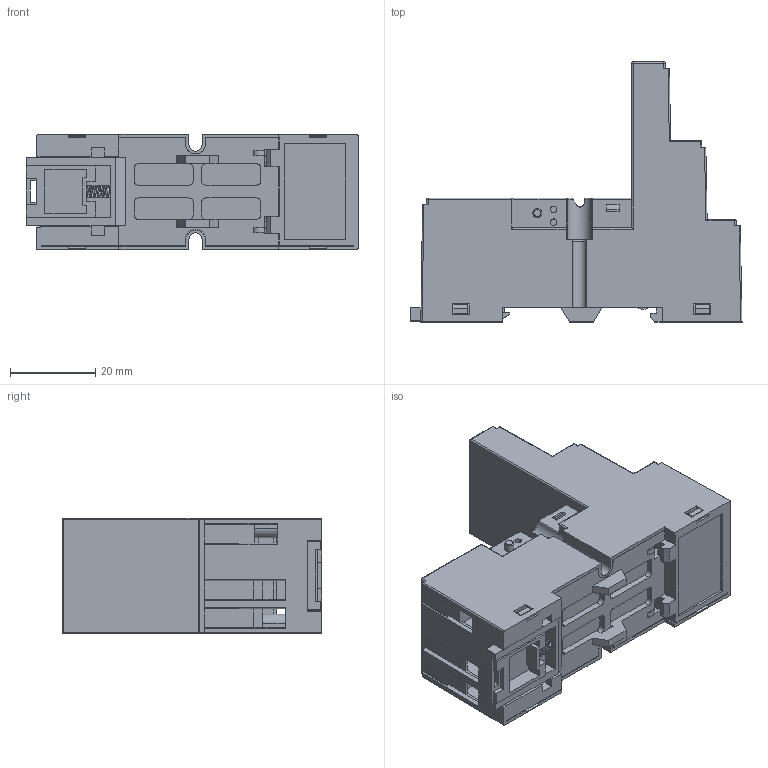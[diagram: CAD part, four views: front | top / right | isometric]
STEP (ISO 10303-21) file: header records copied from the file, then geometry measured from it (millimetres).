
FILE_DESCRIPTION(/* description */ (''),/* implementation_level */ '2;1');
FILE_NAME(/* name */ '18F-3Z-C5.stp',/* time_stamp */ '2025-09-09T15:39:14+08:00',/* author */ (''),/* organization */ (''),/* preprocessor_version */ 'ST-DEVELOPER v11',/* originating_system */ 'SIEMENS UGS NX 6.0',/* authorisation */ '');
FILE_SCHEMA (('AP203_CONFIGURATION_CONTROLLED_3D_DESIGN_OF_MECHANICAL_PARTS_AND_ASSEMBLIES_MIM_LF'));
Length unit declared in the file: millimetre
Products named in the file (1): 18F-3Z-C5-
Bounding box: 78.05 x 61.1 x 27.2 mm (x, y, z)
Surface area: 34198.8 mm2 (no closed solid volume)
Topology: 0 solids, 1 shells, 1256 faces, 3481 edges, 2261 vertices
Faces by surface type: plane 1054, cylinder 146, sphere 18, bspline 14, torus 12, cone 12
Full cylindrical faces by diameter (mm): 1.5 x5, 2.1 x2, 2.5 x12, 2.51 x2, 3 x12, 3.02 x2, 3.9 x1, 4.5 x1, 5.5 x12
Entity records: 41029 total; most frequent: CARTESIAN_POINT 9122, ORIENTED_EDGE 6724, DIRECTION 6165, EDGE_CURVE 3362, LINE 2915, VECTOR 2915, VERTEX_POINT 2240, AXIS2_PLACEMENT_3D 1625
